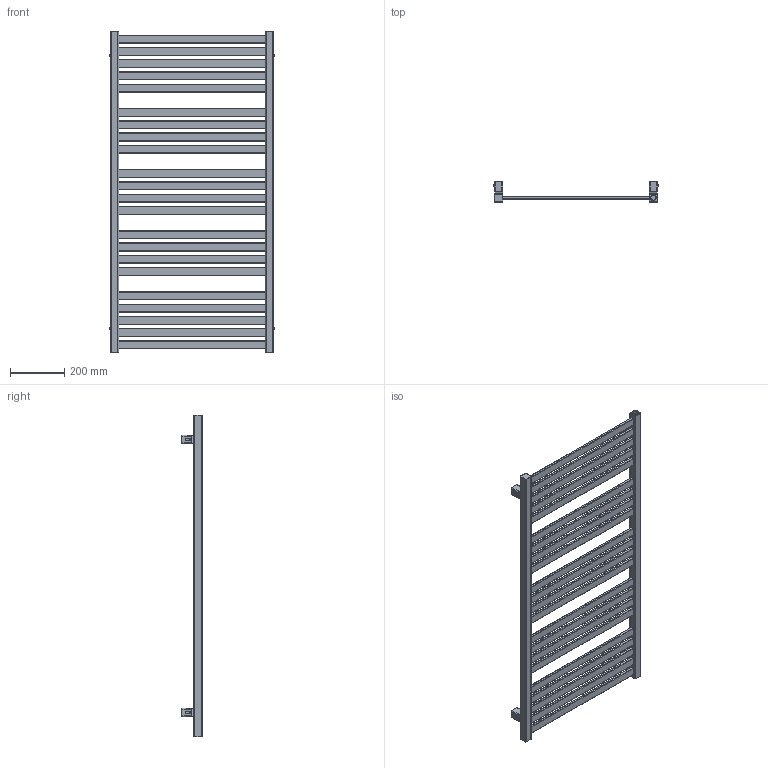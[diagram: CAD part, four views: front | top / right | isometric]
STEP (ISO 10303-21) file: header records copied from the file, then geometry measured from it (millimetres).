
FILE_DESCRIPTION((''),'2;1');
FILE_NAME('Z:\R\G\P\RGPH09 - Grzejnik Marlin\Work\Inventor\Grzejnik Marlin v3.0\Marketing\AutoCad 3D\MR-1185-600-SX_MKT.stp','2012-07-25T08:30:22',('PioRo'),(''),'Autodesk Inventor 2012','Autodesk Inventor 2012','');
FILE_SCHEMA(('AUTOMOTIVE_DESIGN { 1 0 10303 214 1 1 1 1 }'));
Length unit declared in the file: millimetre
Products named in the file (3): MR-1185-600-SX_MKT; MKT42-00-A v0.2
Assembly tree (5 placements, depth 2):
  MR-1185-600-SX_MKT
    MR-1185-600-SX_MKT
    MKT42-00-A v0.2  x4
Bounding box: 603.98 x 74.5 x 1185 mm (x, y, z)
Volume: 5805070 mm3; surface area: 1217032.4 mm2
Topology: 5 solids, 5 shells, 513 faces, 1315 edges, 841 vertices
Faces by surface type: cylinder 223, plane 215, bspline 62, torus 9, cone 4
Full cylindrical faces by diameter (mm): 4.134 x4, 10 x4, 12 x4, 18.631 x3
Entity records: 11381 total; most frequent: CARTESIAN_POINT 3199, DIRECTION 1724, ORIENTED_EDGE 1646, EDGE_CURVE 823, AXIS2_PLACEMENT_3D 622, VERTEX_POINT 543, VECTOR 480, LINE 480
